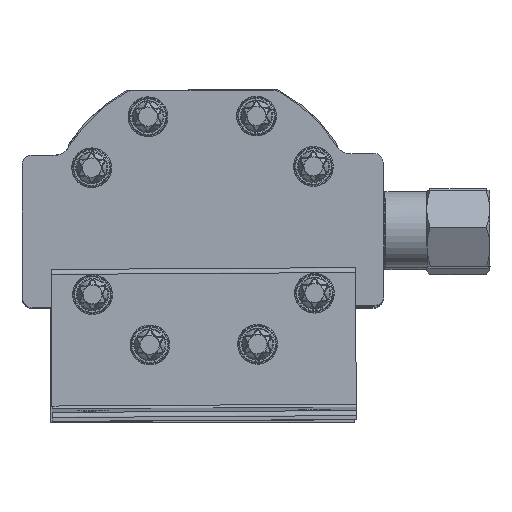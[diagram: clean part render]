
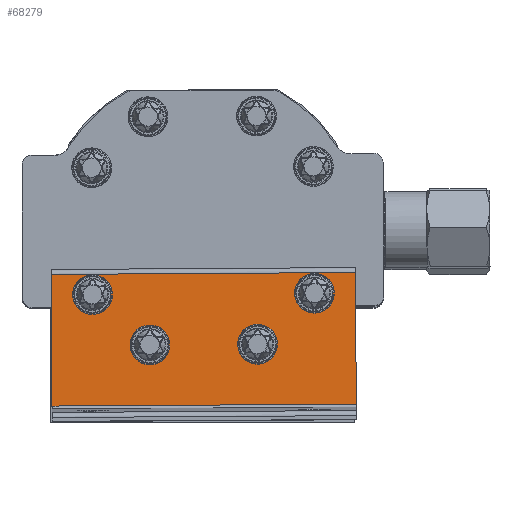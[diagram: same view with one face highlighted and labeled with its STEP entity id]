
A CAD part, top view. The second image highlights one B-rep face of the part: STEP entity #68279.
In plain terms, the highlighted planar face has unit normal (0, 0.026, 1).
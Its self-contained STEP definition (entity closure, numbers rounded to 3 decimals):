
#26 = CARTESIAN_POINT ( 'NONE',  ( 13.746, -37.619, 86.816 ) ) ;
#33 = CARTESIAN_POINT ( 'NONE',  ( 6.603, -37.663, 86.816 ) ) ;
#35 = CARTESIAN_POINT ( 'NONE',  ( 6.647, -44.807, 87.003 ) ) ;
#37 = CARTESIAN_POINT ( 'NONE',  ( 13.791, -44.762, 87.003 ) ) ;
#39 = CARTESIAN_POINT ( 'NONE',  ( 20.934, -44.718, 87.003 ) ) ;
#41 = CARTESIAN_POINT ( 'NONE',  ( 20.89, -37.574, 86.816 ) ) ;
#43 = CARTESIAN_POINT ( 'NONE',  ( 13.746, -37.619, 86.816 ) ) ;
#51 = CARTESIAN_POINT ( 'NONE',  ( 27.967, -24.83, 86.483 ) ) ;
#58 = CARTESIAN_POINT ( 'NONE',  ( 20.824, -24.874, 86.483 ) ) ;
#60 = CARTESIAN_POINT ( 'NONE',  ( 20.868, -32.018, 86.67 ) ) ;
#62 = CARTESIAN_POINT ( 'NONE',  ( 28.012, -31.974, 86.67 ) ) ;
#64 = CARTESIAN_POINT ( 'NONE',  ( 35.155, -31.93, 86.67 ) ) ;
#66 = CARTESIAN_POINT ( 'NONE',  ( 35.111, -24.786, 86.483 ) ) ;
#68 = CARTESIAN_POINT ( 'NONE',  ( 27.967, -24.83, 86.483 ) ) ;
#100 = CARTESIAN_POINT ( 'NONE',  ( -37.928, -23.697, 86.443 ) ) ;
#103 = DIRECTION ( 'NONE',  ( 1., 0.006, 0. ) ) ;
#122 = CARTESIAN_POINT ( 'NONE',  ( 38.27, -23.225, 86.443 ) ) ;
#125 = DIRECTION ( 'NONE',  ( 0.006, -1., 0.026 ) ) ;
#127 = CARTESIAN_POINT ( 'NONE',  ( -37.928, -23.697, 86.443 ) ) ;
#130 = DIRECTION ( 'NONE',  ( 0.006, -1., 0.026 ) ) ;
#5698 = FACE_BOUND ( 'NONE', #34485, .T. ) ;
#5702 = FACE_BOUND ( 'NONE', #34538, .T. ) ;
#5704 = FACE_BOUND ( 'NONE', #54893, .T. ) ;
#5706 = FACE_OUTER_BOUND ( 'NONE', #54752, .T. ) ;
#5711 = FACE_BOUND ( 'NONE', #54835, .T. ) ;
#14036 = LINE ( 'NONE', #100, #14040 ) ;
#14038 = LINE ( 'NONE', #122, #14045 ) ;
#14040 = VECTOR ( 'NONE', #103, 1000. ) ;
#14042 = LINE ( 'NONE', #127, #14049 ) ;
#14045 = VECTOR ( 'NONE', #125, 1000. ) ;
#14049 = VECTOR ( 'NONE', #130, 1000. ) ;
#14697 = AXIS2_PLACEMENT_3D ( 'NONE', #85623, #85617, #85627 ) ;
#20496 = VERTEX_POINT ( 'NONE', #53194 ) ;
#20500 = VERTEX_POINT ( 'NONE', #53197 ) ;
#34485 = EDGE_LOOP ( 'NONE', ( #64074 ) ) ;
#34538 = EDGE_LOOP ( 'NONE', ( #64075 ) ) ;
#36623 = CARTESIAN_POINT ( 'NONE',  ( -20.372, -37.83, 86.816 ) ) ;
#36647 = DIRECTION ( 'NONE',  ( -1., -0.006, 0. ) ) ;
#36650 = CARTESIAN_POINT ( 'NONE',  ( -13.228, -37.786, 86.816 ) ) ;
#36655 = CARTESIAN_POINT ( 'NONE',  ( -20.327, -44.974, 87.003 ) ) ;
#36657 = CARTESIAN_POINT ( 'NONE',  ( -13.184, -44.929, 87.003 ) ) ;
#36660 = CARTESIAN_POINT ( 'NONE',  ( -6.04, -44.885, 87.003 ) ) ;
#36663 = CARTESIAN_POINT ( 'NONE',  ( -6.084, -37.742, 86.816 ) ) ;
#36666 = CARTESIAN_POINT ( 'NONE',  ( -13.228, -37.786, 86.816 ) ) ;
#36679 = CARTESIAN_POINT ( 'NONE',  ( -27.607, -25.175, 86.483 ) ) ;
#36691 = CARTESIAN_POINT ( 'NONE',  ( -34.75, -25.219, 86.483 ) ) ;
#36695 = CARTESIAN_POINT ( 'NONE',  ( -34.706, -32.363, 86.67 ) ) ;
#36698 = CARTESIAN_POINT ( 'NONE',  ( -27.562, -32.318, 86.67 ) ) ;
#36701 = CARTESIAN_POINT ( 'NONE',  ( -20.419, -32.274, 86.67 ) ) ;
#36703 = CARTESIAN_POINT ( 'NONE',  ( -20.463, -25.13, 86.483 ) ) ;
#36705 = CARTESIAN_POINT ( 'NONE',  ( -27.607, -25.175, 86.483 ) ) ;
#36723 = CARTESIAN_POINT ( 'NONE',  ( 38.475, -56.191, 87.306 ) ) ;
#39988 = CARTESIAN_POINT ( 'NONE',  ( 38.475, -56.191, 87.306 ) ) ;
#40024 = CARTESIAN_POINT ( 'NONE',  ( -37.724, -56.663, 87.306 ) ) ;
#40028 = CARTESIAN_POINT ( 'NONE',  ( 38.27, -23.225, 86.443 ) ) ;
#40104 = CARTESIAN_POINT ( 'NONE',  ( -37.928, -23.697, 86.443 ) ) ;
#47043 = VECTOR ( 'NONE', #36647, 1000. ) ;
#47052 = LINE ( 'NONE', #36723, #47043 ) ;
#50870 = VERTEX_POINT ( 'NONE', #40104 ) ;
#50931 = VERTEX_POINT ( 'NONE', #40028 ) ;
#50935 = VERTEX_POINT ( 'NONE', #40024 ) ;
#50969 = VERTEX_POINT ( 'NONE', #39988 ) ;
#52591 = CARTESIAN_POINT ( 'NONE',  ( -13.228, -37.786, 86.816 ) ) ;
#52594 = CARTESIAN_POINT ( 'NONE',  ( -27.607, -25.175, 86.483 ) ) ;
#53194 = CARTESIAN_POINT ( 'NONE',  ( 13.746, -37.619, 86.816 ) ) ;
#53197 = CARTESIAN_POINT ( 'NONE',  ( 27.967, -24.83, 86.483 ) ) ;
#54752 = EDGE_LOOP ( 'NONE', ( #64064, #64065, #64067, #64069 ) ) ;
#54835 = EDGE_LOOP ( 'NONE', ( #64071 ) ) ;
#54893 = EDGE_LOOP ( 'NONE', ( #64072 ) ) ;
#56366 = EDGE_CURVE ( 'NONE', #94695, #94695, #92650, .T. ) ;
#56368 = EDGE_CURVE ( 'NONE', #94697, #94697, #92653, .T. ) ;
#56371 = EDGE_CURVE ( 'NONE', #50969, #50935, #47052, .T. ) ;
#64064 = ORIENTED_EDGE ( 'NONE', *, *, #56371, .F. ) ;
#64065 = ORIENTED_EDGE ( 'NONE', *, *, #75601, .F. ) ;
#64067 = ORIENTED_EDGE ( 'NONE', *, *, #75600, .F. ) ;
#64069 = ORIENTED_EDGE ( 'NONE', *, *, #75602, .T. ) ;
#64071 = ORIENTED_EDGE ( 'NONE', *, *, #75592, .F. ) ;
#64072 = ORIENTED_EDGE ( 'NONE', *, *, #75590, .F. ) ;
#64074 = ORIENTED_EDGE ( 'NONE', *, *, #56366, .F. ) ;
#64075 = ORIENTED_EDGE ( 'NONE', *, *, #56368, .F. ) ;
#68279 = ADVANCED_FACE ( 'NONE', ( #5706, #5711, #5704, #5698, #5702 ), #85620, .F. ) ;
#75590 = EDGE_CURVE ( 'NONE', #20496, #20496, #81817, .T. ) ;
#75592 = EDGE_CURVE ( 'NONE', #20500, #20500, #81639, .T. ) ;
#75600 = EDGE_CURVE ( 'NONE', #50870, #50931, #14036, .T. ) ;
#75601 = EDGE_CURVE ( 'NONE', #50931, #50969, #14038, .T. ) ;
#75602 = EDGE_CURVE ( 'NONE', #50870, #50935, #14042, .T. ) ;
#81639 =( BOUNDED_CURVE ( )  B_SPLINE_CURVE ( 3, ( #51, #58, #60, #62, #64, #66, #68 ),
 .UNSPECIFIED., .T., .F. ) 
 B_SPLINE_CURVE_WITH_KNOTS ( ( 4, 3, 4 ),
 ( 0., 3.142, 6.283 ),
 .UNSPECIFIED. ) 
 CURVE ( )  GEOMETRIC_REPRESENTATION_ITEM ( )  RATIONAL_B_SPLINE_CURVE ( ( 1., 0.333, 0.333, 1., 0.333, 0.333, 1. ) ) 
 REPRESENTATION_ITEM ( '' )  );
#81817 =( BOUNDED_CURVE ( )  B_SPLINE_CURVE ( 3, ( #26, #33, #35, #37, #39, #41, #43 ),
 .UNSPECIFIED., .T., .T. ) 
 B_SPLINE_CURVE_WITH_KNOTS ( ( 4, 3, 4 ),
 ( 0., 3.142, 6.283 ),
 .UNSPECIFIED. ) 
 CURVE ( )  GEOMETRIC_REPRESENTATION_ITEM ( )  RATIONAL_B_SPLINE_CURVE ( ( 1., 0.333, 0.333, 1., 0.333, 0.333, 1. ) ) 
 REPRESENTATION_ITEM ( '' )  );
#85617 = DIRECTION ( 'NONE',  ( 0., -0.026, -1. ) ) ;
#85620 = PLANE ( 'NONE',  #14697 ) ;
#85623 = CARTESIAN_POINT ( 'NONE',  ( 38.27, -23.225, 86.443 ) ) ;
#85627 = DIRECTION ( 'NONE',  ( 0., 1., -0.026 ) ) ;
#92650 =( BOUNDED_CURVE ( )  B_SPLINE_CURVE ( 3, ( #36650, #36623, #36655, #36657, #36660, #36663, #36666 ),
 .UNSPECIFIED., .T., .T. ) 
 B_SPLINE_CURVE_WITH_KNOTS ( ( 4, 3, 4 ),
 ( 0., 3.142, 6.283 ),
 .UNSPECIFIED. ) 
 CURVE ( )  GEOMETRIC_REPRESENTATION_ITEM ( )  RATIONAL_B_SPLINE_CURVE ( ( 1., 0.333, 0.333, 1., 0.333, 0.333, 1. ) ) 
 REPRESENTATION_ITEM ( '' )  );
#92653 =( BOUNDED_CURVE ( )  B_SPLINE_CURVE ( 3, ( #36679, #36691, #36695, #36698, #36701, #36703, #36705 ),
 .UNSPECIFIED., .T., .F. ) 
 B_SPLINE_CURVE_WITH_KNOTS ( ( 4, 3, 4 ),
 ( 0., 3.142, 6.283 ),
 .UNSPECIFIED. ) 
 CURVE ( )  GEOMETRIC_REPRESENTATION_ITEM ( )  RATIONAL_B_SPLINE_CURVE ( ( 1., 0.333, 0.333, 1., 0.333, 0.333, 1. ) ) 
 REPRESENTATION_ITEM ( '' )  );
#94695 = VERTEX_POINT ( 'NONE', #52591 ) ;
#94697 = VERTEX_POINT ( 'NONE', #52594 ) ;
